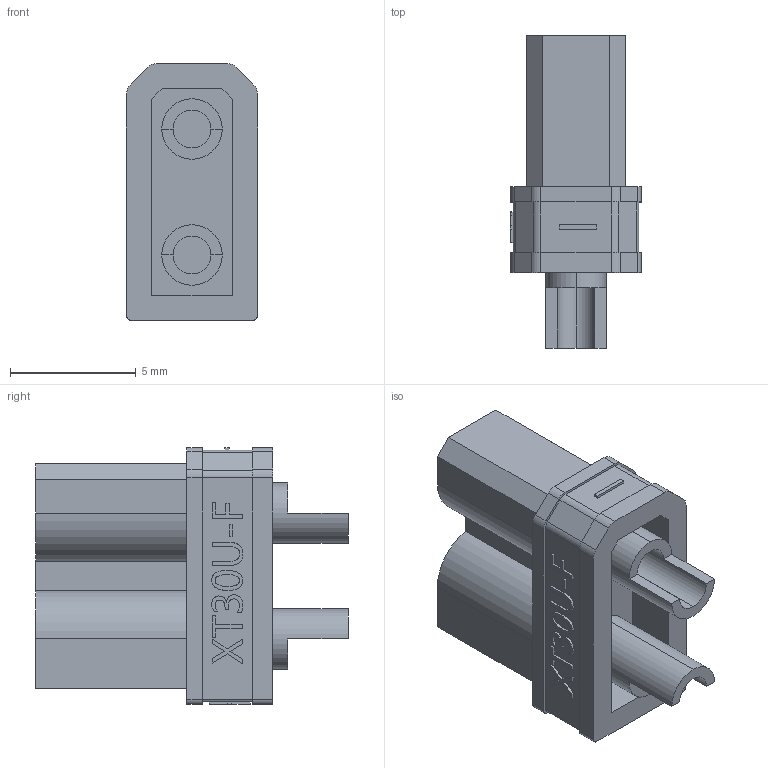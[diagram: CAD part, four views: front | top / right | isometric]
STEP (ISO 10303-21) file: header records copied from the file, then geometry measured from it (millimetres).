
FILE_DESCRIPTION (( 'STEP AP214' ), '1' );
FILE_NAME ('XT30U-F(DC48V).STEP', '2022-02-21T07:51:33', ( 'User' ), ( 'China' ), 'SwSTEP 2.0', 'SolidWorks 2016', '' );
FILE_SCHEMA (( 'AUTOMOTIVE_DESIGN' ));
Length unit declared in the file: millimetre
Products named in the file (1): XT30U-F(DC48V)
Bounding box: 5.2 x 12.4 x 10.2 mm (x, y, z)
Volume: 260.1 mm3; surface area: 607.3 mm2
Topology: 1 solids, 1 shells, 192 faces, 512 edges, 340 vertices
Faces by surface type: plane 126, cylinder 34, bspline 28, cone 4
Entity records: 7485 total; most frequent: CARTESIAN_POINT 2768, ORIENTED_EDGE 1024, DIRECTION 866, EDGE_CURVE 512, LINE 376, VECTOR 376, VERTEX_POINT 340, AXIS2_PLACEMENT_3D 245
